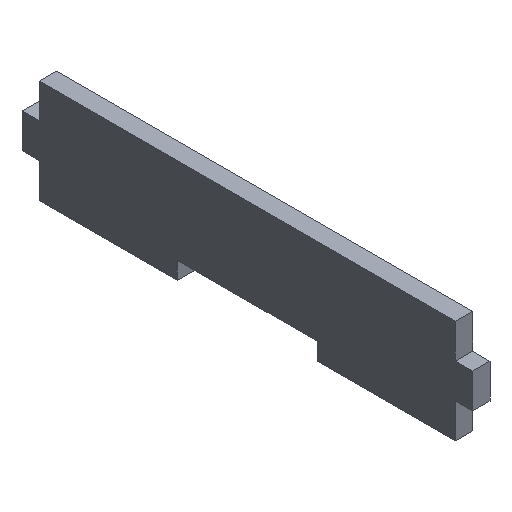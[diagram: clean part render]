
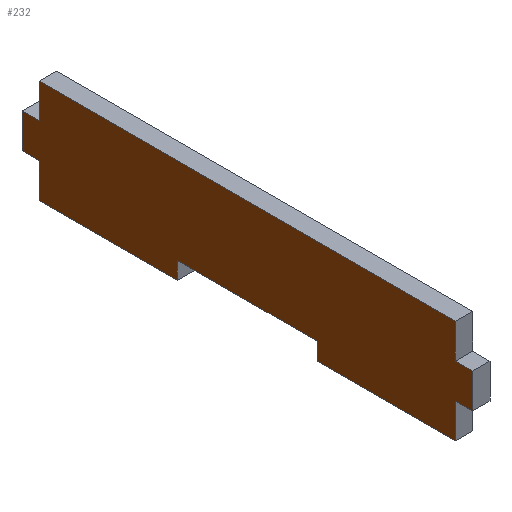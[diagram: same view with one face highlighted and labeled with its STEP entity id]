
A CAD part, isometric view. The second image highlights one B-rep face of the part: STEP entity #232.
In plain terms, the highlighted planar face has unit normal (-1, 0, 0).
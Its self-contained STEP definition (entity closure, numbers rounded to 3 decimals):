
#22 = VERTEX_POINT('',#23);
#23 = CARTESIAN_POINT('',(-37.6,-26.1,4.));
#31 = EDGE_CURVE('',#22,#32,#34,.T.);
#32 = VERTEX_POINT('',#33);
#33 = CARTESIAN_POINT('',(-37.6,-26.1,8.));
#34 = LINE('',#35,#36);
#35 = CARTESIAN_POINT('',(-37.6,-26.1,0.));
#36 = VECTOR('',#37,1.);
#37 = DIRECTION('',(0.,0.,1.));
#71 = VERTEX_POINT('',#72);
#72 = CARTESIAN_POINT('',(-37.6,-24.1,4.));
#78 = EDGE_CURVE('',#22,#71,#79,.T.);
#79 = LINE('',#80,#81);
#80 = CARTESIAN_POINT('',(-37.6,-26.1,4.));
#81 = VECTOR('',#82,1.);
#82 = DIRECTION('',(0.,1.,0.));
#213 = VERTEX_POINT('',#214);
#214 = CARTESIAN_POINT('',(-37.6,-24.1,8.));
#222 = EDGE_CURVE('',#213,#32,#223,.T.);
#223 = LINE('',#224,#225);
#224 = CARTESIAN_POINT('',(-37.6,-24.1,8.));
#225 = VECTOR('',#226,1.);
#226 = DIRECTION('',(0.,-1.,0.));
#232 = ADVANCED_FACE('',(#233),#340,.F.);
#233 = FACE_BOUND('',#234,.F.);
#234 = EDGE_LOOP('',(#235,#245,#253,#261,#269,#277,#285,#291,#292,#293,
    #294,#302,#310,#318,#326,#334));
#235 = ORIENTED_EDGE('',*,*,#236,.T.);
#236 = EDGE_CURVE('',#237,#239,#241,.T.);
#237 = VERTEX_POINT('',#238);
#238 = CARTESIAN_POINT('',(-37.6,24.1,0.));
#239 = VERTEX_POINT('',#240);
#240 = CARTESIAN_POINT('',(-37.6,24.1,4.));
#241 = LINE('',#242,#243);
#242 = CARTESIAN_POINT('',(-37.6,24.1,0.));
#243 = VECTOR('',#244,1.);
#244 = DIRECTION('',(0.,0.,1.));
#245 = ORIENTED_EDGE('',*,*,#246,.T.);
#246 = EDGE_CURVE('',#239,#247,#249,.T.);
#247 = VERTEX_POINT('',#248);
#248 = CARTESIAN_POINT('',(-37.6,26.1,4.));
#249 = LINE('',#250,#251);
#250 = CARTESIAN_POINT('',(-37.6,24.1,4.));
#251 = VECTOR('',#252,1.);
#252 = DIRECTION('',(0.,1.,0.));
#253 = ORIENTED_EDGE('',*,*,#254,.T.);
#254 = EDGE_CURVE('',#247,#255,#257,.T.);
#255 = VERTEX_POINT('',#256);
#256 = CARTESIAN_POINT('',(-37.6,26.1,8.));
#257 = LINE('',#258,#259);
#258 = CARTESIAN_POINT('',(-37.6,26.1,0.));
#259 = VECTOR('',#260,1.);
#260 = DIRECTION('',(0.,0.,1.));
#261 = ORIENTED_EDGE('',*,*,#262,.T.);
#262 = EDGE_CURVE('',#255,#263,#265,.T.);
#263 = VERTEX_POINT('',#264);
#264 = CARTESIAN_POINT('',(-37.6,24.1,8.));
#265 = LINE('',#266,#267);
#266 = CARTESIAN_POINT('',(-37.6,26.1,8.));
#267 = VECTOR('',#268,1.);
#268 = DIRECTION('',(0.,-1.,0.));
#269 = ORIENTED_EDGE('',*,*,#270,.T.);
#270 = EDGE_CURVE('',#263,#271,#273,.T.);
#271 = VERTEX_POINT('',#272);
#272 = CARTESIAN_POINT('',(-37.6,24.1,12.));
#273 = LINE('',#274,#275);
#274 = CARTESIAN_POINT('',(-37.6,24.1,8.));
#275 = VECTOR('',#276,1.);
#276 = DIRECTION('',(0.,0.,1.));
#277 = ORIENTED_EDGE('',*,*,#278,.T.);
#278 = EDGE_CURVE('',#271,#279,#281,.T.);
#279 = VERTEX_POINT('',#280);
#280 = CARTESIAN_POINT('',(-37.6,-24.1,12.));
#281 = LINE('',#282,#283);
#282 = CARTESIAN_POINT('',(-37.6,26.1,12.));
#283 = VECTOR('',#284,1.);
#284 = DIRECTION('',(0.,-1.,0.));
#285 = ORIENTED_EDGE('',*,*,#286,.T.);
#286 = EDGE_CURVE('',#279,#213,#287,.T.);
#287 = LINE('',#288,#289);
#288 = CARTESIAN_POINT('',(-37.6,-24.1,12.));
#289 = VECTOR('',#290,1.);
#290 = DIRECTION('',(0.,0.,-1.));
#291 = ORIENTED_EDGE('',*,*,#222,.T.);
#292 = ORIENTED_EDGE('',*,*,#31,.F.);
#293 = ORIENTED_EDGE('',*,*,#78,.T.);
#294 = ORIENTED_EDGE('',*,*,#295,.T.);
#295 = EDGE_CURVE('',#71,#296,#298,.T.);
#296 = VERTEX_POINT('',#297);
#297 = CARTESIAN_POINT('',(-37.6,-24.1,0.));
#298 = LINE('',#299,#300);
#299 = CARTESIAN_POINT('',(-37.6,-24.1,4.));
#300 = VECTOR('',#301,1.);
#301 = DIRECTION('',(0.,0.,-1.));
#302 = ORIENTED_EDGE('',*,*,#303,.F.);
#303 = EDGE_CURVE('',#304,#296,#306,.T.);
#304 = VERTEX_POINT('',#305);
#305 = CARTESIAN_POINT('',(-37.6,-8.1,0.));
#306 = LINE('',#307,#308);
#307 = CARTESIAN_POINT('',(-37.6,26.1,0.));
#308 = VECTOR('',#309,1.);
#309 = DIRECTION('',(0.,-1.,0.));
#310 = ORIENTED_EDGE('',*,*,#311,.T.);
#311 = EDGE_CURVE('',#304,#312,#314,.T.);
#312 = VERTEX_POINT('',#313);
#313 = CARTESIAN_POINT('',(-37.6,-8.1,2.));
#314 = LINE('',#315,#316);
#315 = CARTESIAN_POINT('',(-37.6,-8.1,0.));
#316 = VECTOR('',#317,1.);
#317 = DIRECTION('',(0.,0.,1.));
#318 = ORIENTED_EDGE('',*,*,#319,.T.);
#319 = EDGE_CURVE('',#312,#320,#322,.T.);
#320 = VERTEX_POINT('',#321);
#321 = CARTESIAN_POINT('',(-37.6,8.1,2.));
#322 = LINE('',#323,#324);
#323 = CARTESIAN_POINT('',(-37.6,-8.1,2.));
#324 = VECTOR('',#325,1.);
#325 = DIRECTION('',(0.,1.,0.));
#326 = ORIENTED_EDGE('',*,*,#327,.T.);
#327 = EDGE_CURVE('',#320,#328,#330,.T.);
#328 = VERTEX_POINT('',#329);
#329 = CARTESIAN_POINT('',(-37.6,8.1,0.));
#330 = LINE('',#331,#332);
#331 = CARTESIAN_POINT('',(-37.6,8.1,2.));
#332 = VECTOR('',#333,1.);
#333 = DIRECTION('',(0.,0.,-1.));
#334 = ORIENTED_EDGE('',*,*,#335,.F.);
#335 = EDGE_CURVE('',#237,#328,#336,.T.);
#336 = LINE('',#337,#338);
#337 = CARTESIAN_POINT('',(-37.6,26.1,0.));
#338 = VECTOR('',#339,1.);
#339 = DIRECTION('',(0.,-1.,0.));
#340 = PLANE('',#341);
#341 = AXIS2_PLACEMENT_3D('',#342,#343,#344);
#342 = CARTESIAN_POINT('',(-37.6,26.1,0.));
#343 = DIRECTION('',(1.,0.,0.));
#344 = DIRECTION('',(0.,-1.,0.));
